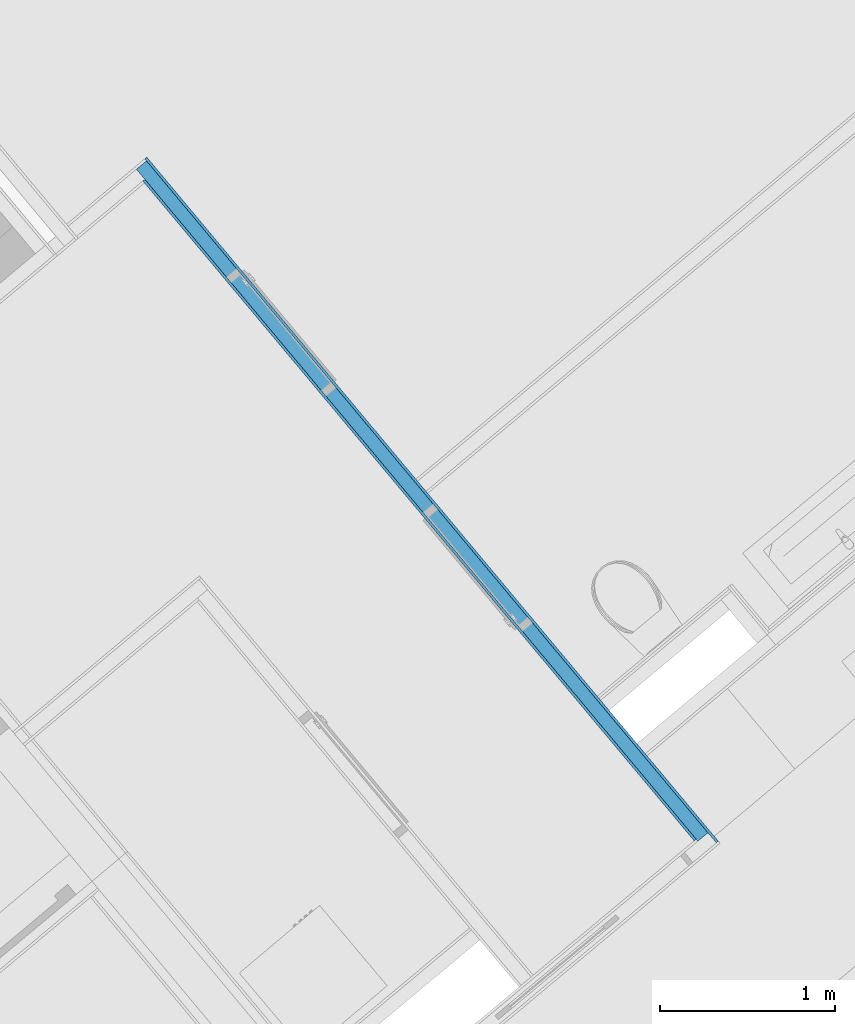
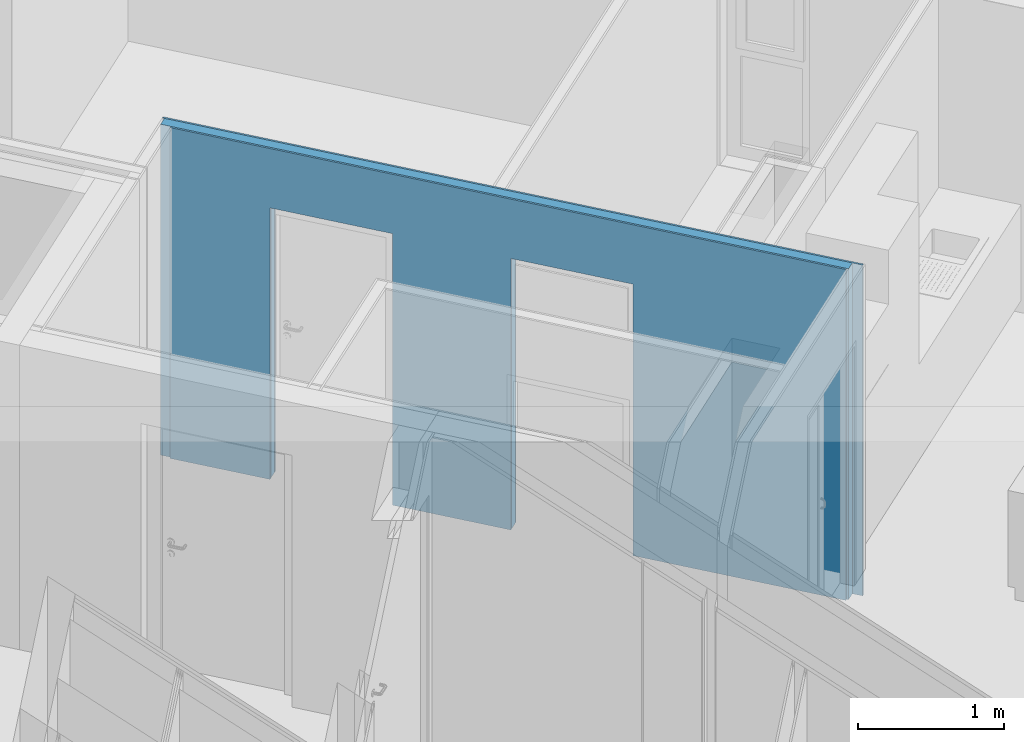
# One storey, part 12 of 50: 3 building element parts, 2 openings, 1 element without a shape of its own.
"""IFC4 building model written with IfcOpenShell, lengths in metres."""

from ifc_helpers import new_model, entity, si_unit, converted_unit, derived_unit, direction, frame, origin_with_axes, place, context, subcontext, project, spatial, polygons, material, type_object, element, aggregate, save


model = new_model("IFC4")

# Units and contexts
model_context = context("Model", 3, precision=1e-05, world=origin_with_axes(), true_north=direction((0.0, 1.0)))
body_context = subcontext(model_context, "Body", "Model", "MODEL_VIEW")
ifc_project = project(units=[si_unit("LENGTHUNIT", "METRE"), si_unit("AREAUNIT", "SQUARE_METRE"), si_unit("VOLUMEUNIT", "CUBIC_METRE"), converted_unit("PLANEANGLEUNIT", "DEGREE", entity("IfcPlaneAngleMeasure", 0.0174532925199), si_unit("PLANEANGLEUNIT", "RADIAN"), dimensions=[0, 0, 0, 0, 0, 0, 0]), converted_unit("TIMEUNIT", "Year", entity("IfcTimeMeasure", 31556926.0), si_unit("TIMEUNIT", "SECOND"), dimensions=[0, 0, 1, 0, 0, 0, 0]), si_unit("MASSUNIT", "GRAM", prefix="KILO"), si_unit("THERMODYNAMICTEMPERATUREUNIT", "DEGREE_CELSIUS"), si_unit("LUMINOUSINTENSITYUNIT", "LUMEN"), si_unit("ENERGYUNIT", "JOULE", prefix="MEGA"), derived_unit("THERMALCONDUCTANCEUNIT", [(si_unit("POWERUNIT", "WATT"), 1), (si_unit("LENGTHUNIT", "METRE"), -1), (si_unit("THERMODYNAMICTEMPERATUREUNIT", "KELVIN"), -1)]), derived_unit("SPECIFICHEATCAPACITYUNIT", [(si_unit("ENERGYUNIT", "JOULE"), 1), (si_unit("MASSUNIT", "GRAM", prefix="KILO"), -1), (si_unit("THERMODYNAMICTEMPERATUREUNIT", "KELVIN"), -1)]), derived_unit("MASSDENSITYUNIT", [(si_unit("MASSUNIT", "GRAM", prefix="KILO"), 1), (si_unit("VOLUMEUNIT", "CUBIC_METRE"), -1)])], contexts=[model_context])

# Site, building, storey
site_placement = place(None, frame((-0.00153261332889, -0.00661245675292, 0.0), z_axis=(0.0, 0.0, 1.0), x_axis=(1.0, 0.0, 0.0)))
site = spatial("IfcSite", under=ifc_project, at=site_placement, Name="Site", CompositionType="ELEMENT")
building_placement = place(site_placement, origin_with_axes())
building = spatial("IfcBuilding", under=site, at=building_placement, Name="Building", CompositionType="ELEMENT")
storey_placement = place(building_placement, frame((0.0, 0.0, 2.74), z_axis=(0.0, 0.0, 1.0), x_axis=(1.0, 0.0, 0.0)))
storey = spatial("IfcBuildingStorey", under=building, at=storey_placement, Name="OG1", CompositionType="ELEMENT", Elevation=2.74)

# Wall, openings, building element parts
wall_type = type_object("IfcWallType", Name="IW LB 01 Leichtbautrennwand einfach 10,5 cm 105", PredefinedType="NOTDEFINED")
wall_placement = place(storey_placement, frame((6.82661068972, 22.4478297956, 0.0), z_axis=(0.0, 0.0, 1.0), x_axis=(-0.641209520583, 0.767365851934, 0.0)))
wall = element("IfcWall", 1, at=wall_placement, inside=storey, type_object=wall_type, Name="Wand-012", PredefinedType="NOTDEFINED")
opening_1_placement = place(wall_placement, frame((2.09706783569, 0.0, 0.22), z_axis=(0.0, 0.0, 1.0), x_axis=(1.0, 0.0, 0.0)))
element("IfcOpeningElement", 2, at=opening_1_placement, cuts=wall, Name="Tür-014", context=body_context, identifier="Reference", shape_type="Tessellation", body=[
    polygons([(-0.445, -2.51639218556, 2.045), (-0.445, -2.51639218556, -0.22), (0.445, -2.51639218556, -0.22), (0.445, -2.51639218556, 2.045), (-0.445, 2.62139218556, 2.045), (-0.445, 2.62139218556, -0.22), (0.445, 2.62139218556, -0.22), (0.445, 2.62139218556, 2.045)], [[[1, 2, 3, 4]], [[5, 6, 2, 1]], [[6, 7, 3, 2]], [[7, 8, 4, 3]], [[8, 5, 1, 4]], [[7, 6, 5, 8]]], closed=True),
])
opening_2_placement = place(wall_placement, frame((3.85013716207, 0.0, 0.22), z_axis=(0.0, 0.0, 1.0), x_axis=(1.0, 0.0, 0.0)))
element("IfcOpeningElement", 3, at=opening_2_placement, cuts=wall, Name="Tür-016", context=body_context, identifier="Reference", shape_type="Tessellation", body=[
    polygons([(0.445, 2.62139218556, 2.045), (0.445, 2.62139218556, -0.22), (-0.445, 2.62139218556, -0.22), (-0.445, 2.62139218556, 2.045), (0.445, -2.51639218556, 2.045), (0.445, -2.51639218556, -0.22), (-0.445, -2.51639218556, -0.22), (-0.445, -2.51639218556, 2.045)], [[[1, 2, 3, 4]], [[5, 6, 2, 1]], [[6, 7, 3, 2]], [[7, 8, 4, 3]], [[8, 5, 1, 4]], [[7, 6, 5, 8]]], closed=True),
])
ifc_material_1 = material(Name="Gipskarton")
building_element_part_1_placement = place(wall_placement, origin_with_axes())
building_element_part_1 = element("IfcBuildingElementPart", 4, at=building_element_part_1_placement, material=ifc_material_1, Name="Gipskarton", PredefinedType="NOTDEFINED", context=body_context, shape_type="Tessellation", body=[
    polygons([(4.29513716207, 0.09, 2.265), (4.29513716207, 0.09, 0.22), (4.29513712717, 0.09, 0.0), (5.02214632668, 0.09, 0.0), (5.02214632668, 0.09, 2.76), (0.105056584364, 0.09, 2.76), (0.105056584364, 0.09, 0.0), (1.6520678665, 0.09, 0.0), (1.65206783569, 0.09, 0.22), (1.65206783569, 0.09, 2.265), (2.54206783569, 0.09, 2.265), (2.54206783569, 0.09, 0.22), (2.54206783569, 0.09, 0.0), (3.40513716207, 0.09, 0.0), (3.40513716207, 0.09, 0.22), (3.40513716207, 0.09, 2.265), (4.29513716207, 0.105, 2.265), (4.29513716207, 0.105, 0.22), (4.29513712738, 0.105, 0.0), (5.02214632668, 0.105, 0.0), (5.02214632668, 0.105, 2.76), (0.105066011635, 0.105, 2.76), (0.105066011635, 0.105, 0.0), (1.65206786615, 0.105, 0.0), (1.65206783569, 0.105, 0.22), (1.65206783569, 0.105, 2.265), (2.54206783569, 0.105, 2.265), (2.54206783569, 0.105, 0.22), (2.54206783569, 0.105, 0.0), (3.40513716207, 0.105, 0.0), (3.40513716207, 0.105, 0.22), (3.40513716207, 0.105, 2.265)], [[[1, 2, 3, 4, 5, 6, 7, 8, 9, 10, 11, 12, 13, 14, 15, 16]], [[2, 1, 17, 18]], [[2, 18, 19, 3]], [[20, 4, 3, 19]], [[21, 5, 4, 20]], [[22, 6, 5, 21]], [[7, 6, 22, 23]], [[7, 23, 24, 8]], [[9, 8, 24, 25]], [[9, 25, 26, 10]], [[10, 26, 27, 11]], [[11, 27, 28, 12]], [[28, 29, 13, 12]], [[13, 29, 30, 14]], [[31, 15, 14, 30]], [[16, 15, 31, 32]], [[1, 16, 32, 17]], [[32, 31, 30, 29, 28, 27, 26, 25, 24, 23, 22, 21, 20, 19, 18, 17]]], closed=True),
])
ifc_material_2 = material(Name="Mineralwolle weich")
building_element_part_2_placement = place(wall_placement, origin_with_axes())
building_element_part_2 = element("IfcBuildingElementPart", 5, at=building_element_part_2_placement, material=ifc_material_2, Name="Mineralwolle weich", PredefinedType="NOTDEFINED", context=body_context, shape_type="Tessellation", body=[
    polygons([(4.29513716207, 0.015, 2.265), (4.29513716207, 0.015, 0.22), (4.29513712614, 0.015, 0.0), (5.09714632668, 0.015, 0.0), (5.09714632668, 0.015, 2.76), (0.0900094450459, 0.015, 2.76), (0.0900094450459, 0.015, 0.0), (1.65206786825, 0.015, 0.0), (1.65206783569, 0.015, 0.22), (1.65206783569, 0.015, 2.265), (2.54206783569, 0.015, 2.265), (2.54206783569, 0.015, 0.22), (2.54206783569, 0.015, 0.0), (3.40513716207, 0.015, 0.0), (3.40513716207, 0.015, 0.22), (3.40513716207, 0.015, 2.265), (4.29513716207, 0.09, 2.265), (4.29513716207, 0.09, 0.22), (4.29513712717, 0.09, 0.0), (5.09714632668, 0.09, 0.0), (5.09714632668, 0.09, 2.76), (0.0900565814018, 0.09, 2.76), (0.0900565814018, 0.09, 0.0), (1.6520678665, 0.09, 0.0), (1.65206783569, 0.09, 0.22), (1.65206783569, 0.09, 2.265), (2.54206783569, 0.09, 2.265), (2.54206783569, 0.09, 0.22), (2.54206783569, 0.09, 0.0), (3.40513716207, 0.09, 0.0), (3.40513716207, 0.09, 0.22), (3.40513716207, 0.09, 2.265)], [[[1, 2, 3, 4, 5, 6, 7, 8, 9, 10, 11, 12, 13, 14, 15, 16]], [[2, 1, 17, 18]], [[2, 18, 19, 3]], [[20, 4, 3, 19]], [[21, 5, 4, 20]], [[22, 6, 5, 21]], [[7, 6, 22, 23]], [[7, 23, 24, 8]], [[9, 8, 24, 25]], [[9, 25, 26, 10]], [[10, 26, 27, 11]], [[11, 27, 28, 12]], [[28, 29, 13, 12]], [[13, 29, 30, 14]], [[31, 15, 14, 30]], [[16, 15, 31, 32]], [[1, 16, 32, 17]], [[32, 31, 30, 29, 28, 27, 26, 25, 24, 23, 22, 21, 20, 19, 18, 17]]], closed=True),
])
building_element_part_3_placement = place(wall_placement, origin_with_axes())
building_element_part_3 = element("IfcBuildingElementPart", 6, at=building_element_part_3_placement, material=ifc_material_1, Name="Gipskarton", PredefinedType="NOTDEFINED", context=body_context, shape_type="Tessellation", body=[
    polygons([(4.29513716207, 1.80854442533e-10, 2.265), (4.29513716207, -6.83303724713e-09, 0.22), (4.29513712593, -6.83304079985e-09, 0.0), (5.11214632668, 0.0, 0.0), (5.11214632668, 0.0, 2.76), (0.0150000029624, 0.0, 2.76), (0.0150000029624, 0.0, 0.0), (1.6520678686, 6.71234090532e-09, 0.0), (1.65206783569, 6.71234090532e-09, 0.22), (1.65206783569, 1.80857995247e-10, 2.265), (2.54206783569, 1.80857995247e-10, 2.265), (2.54206783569, -3.01550784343e-10, 0.22), (2.54206783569, -3.01550784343e-10, 0.0), (3.40513716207, 1.80857995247e-10, 0.0), (3.40513716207, 1.80857995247e-10, 0.22), (3.40513716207, 1.80854442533e-10, 2.265), (4.29513716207, 0.015, 2.265), (4.29513716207, 0.015, 0.22), (4.29513712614, 0.015, 0.0), (5.11214632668, 0.015, 0.0), (5.11214632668, 0.015, 2.76), (0.0150094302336, 0.015, 2.76), (0.0150094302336, 0.015, 0.0), (1.65206786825, 0.015, 0.0), (1.65206783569, 0.015, 0.22), (1.65206783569, 0.015, 2.265), (2.54206783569, 0.015, 2.265), (2.54206783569, 0.015, 0.22), (2.54206783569, 0.015, 0.0), (3.40513716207, 0.015, 0.0), (3.40513716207, 0.015, 0.22), (3.40513716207, 0.015, 2.265)], [[[1, 2, 3, 4, 5, 6, 7, 8, 9, 10, 11, 12, 13, 14, 15, 16]], [[2, 1, 17, 18]], [[2, 18, 19, 3]], [[20, 4, 3, 19]], [[21, 5, 4, 20]], [[22, 6, 5, 21]], [[7, 6, 22, 23]], [[7, 23, 24, 8]], [[9, 8, 24, 25]], [[9, 25, 26, 10]], [[10, 26, 27, 11]], [[11, 27, 28, 12]], [[28, 29, 13, 12]], [[13, 29, 30, 14]], [[31, 15, 14, 30]], [[16, 15, 31, 32]], [[1, 16, 32, 17]], [[32, 31, 30, 29, 28, 27, 26, 25, 24, 23, 22, 21, 20, 19, 18, 17]]], closed=True),
])
aggregate(wall, [building_element_part_1, building_element_part_2, building_element_part_3])

save(model, "model.ifc")
